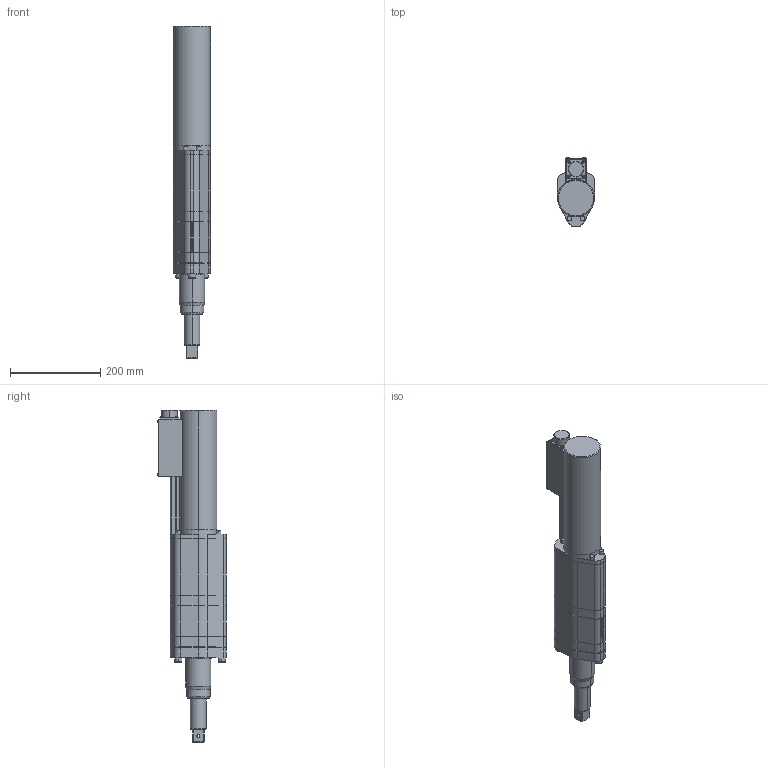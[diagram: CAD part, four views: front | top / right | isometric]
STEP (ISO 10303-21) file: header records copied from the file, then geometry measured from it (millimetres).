
FILE_DESCRIPTION (( 'STEP AP214' ), '1' );
FILE_NAME ('750禳踡粣.STEP', '2025-09-30T06:31:53', ( '' ), ( '' ), 'SwSTEP 2.0', 'SolidWorks 2021', '' );
FILE_SCHEMA (( 'AUTOMOTIVE_DESIGN' ));
Length unit declared in the file: millimetre
Products named in the file (39): 扥坫粣; 揤銅YB 1.5X13.5X400_雄怓; 團蚐遠; GB818蹟隊M3X25_GB_CROSS_SCREWS_TYPE1 M3X25-25  H type-N; TAS21-45毀砃粣縐; TLA4516Z粣創; 躇猾菜; WF32J19Z鼠釱; 750盄羞; 揤銅絳砃种; TKZ090-29.645(750Nm)熬厒儂; TAS41-52毀砃謂縐; TLA4516Z傍杶; 諷秶碟裔; 750換覜ん誘欶(撥揤)_B; 750扥坫窒郪; 750諉芛揤啣; 蚐猾SD35X42X4; GB120.2埴翐种8X26_GB_PARALLEL_PINS_TYPE5 8X26-A-N; TLA3520Z粣創; GB70.1蹟邡M4X20_GB_FASTENER_SCREWS_HSHCS M4X20-N; 囀豪瑩粣; GB70.1蹟邡M10X40_GB_FASTENER_SCREWS_HSHCS M10X25-C; 揤盄え; GB818蹟隊M3X6_GB_CROSS_SCREWS_TYPE1 M3X8-8  H type-N; GK6A03H-8AF61-FE-YZ萇儂; GB818蹟隊M3X8_GB_CROSS_SCREWS_TYPE1 M3X8-8  H type-N; 禳踡粣萇繚啣; 750諷秶碟(鍼踢); 750換覜ん; 嘐隅粣杶; TAS41-42毀砃謂縐; 賑藻え; GB3452.1 O型圈67X3.55_GB-T 3452.1 67x3.55-A; GB819.2蹟隊M3X6_GB_CROSS_SCREWS_TYPE10 M3X6-4.35-H1-C; 750換覜ん誘欶(撥揤); 750禳踡粣; GB276粣創6009_Rolling bearings 6009 GB 276-94; 750換覜ん誘欶(撥揤)_A
Assembly tree (64 placements, depth 4):
  750禳踡粣
    TKZ090-29.645(750Nm)熬厒儂
    GK6A03H-8AF61-FE-YZ萇儂
    750扥坫窒郪
      750換覜ん
      囀豪瑩粣
      扥坫粣
      嘐隅粣杶
      躇猾菜
      賑藻え  x2
      揤銅絳砃种
      團蚐遠
      TLA4516Z傍杶
      揤銅YB 1.5X13.5X400_雄怓  x2
      蚐猾SD35X42X4
      GB276粣創6009_Rolling bearings 6009 GB 276-94
      TLA4516Z粣創
      TLA3520Z粣創
      GB3452.1 O型圈67X3.55_GB-T 3452.1 67x3.55-A  x2
      TAS41-42毀砃謂縐
      TAS21-45毀砃粣縐
      TAS41-52毀砃謂縐
      GB70.1蹟邡M10X40_GB_FASTENER_SCREWS_HSHCS M10X25-C  x6
      GB70.1蹟邡M4X20_GB_FASTENER_SCREWS_HSHCS M4X20-N  x6
      GB120.2埴翐种8X26_GB_PARALLEL_PINS_TYPE5 8X26-A-N
      揤盄え
      750換覜ん誘欶(撥揤)
        750換覜ん誘欶(撥揤)_A
        750換覜ん誘欶(撥揤)_B
    GB818蹟隊M3X25_GB_CROSS_SCREWS_TYPE1 M3X25-25  H type-N  x2
    GB818蹟隊M3X8_GB_CROSS_SCREWS_TYPE1 M3X8-8  H type-N  x4
    750盄羞
    750諷秶碟(鍼踢)
    750諉芛揤啣
    諷秶碟裔
    WF32J19Z鼠釱
    禳踡粣萇繚啣  x2
    GB818蹟隊M3X6_GB_CROSS_SCREWS_TYPE1 M3X8-8  H type-N  x8
    GB819.2蹟隊M3X6_GB_CROSS_SCREWS_TYPE10 M3X6-4.35-H1-C  x2
Bounding box: 82 x 152.85 x 735.5 mm (x, y, z)
Volume: 2459899.2 mm3; surface area: 651263.8 mm2
Topology: 143 solids, 146 shells, 3920 faces, 10087 edges, 6420 vertices
Faces by surface type: cylinder 1599, plane 1107, torus 451, cone 335, bspline 218, sphere 210
Entity records: 165358 total; most frequent: CARTESIAN_POINT 65288, DIRECTION 18493, ORIENTED_EDGE 16760, EDGE_CURVE 8468, AXIS2_PLACEMENT_3D 7891, VERTEX_POINT 5420, CIRCLE 4696, EDGE_LOOP 3776
